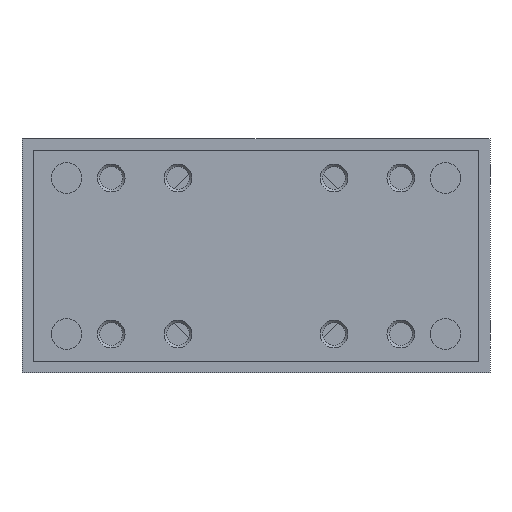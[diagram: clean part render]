
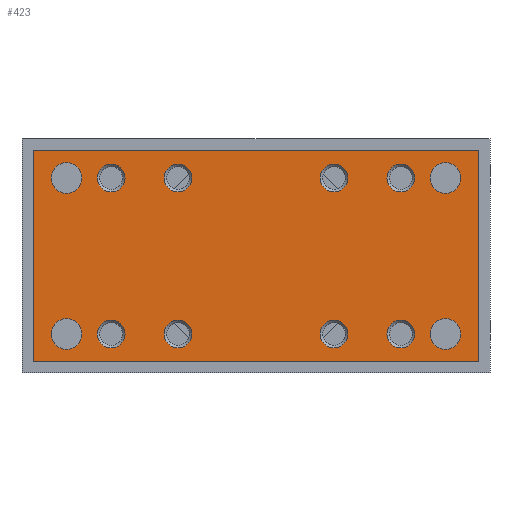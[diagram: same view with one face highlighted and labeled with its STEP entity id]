
A CAD part, left-side view. The second image highlights one B-rep face of the part: STEP entity #423.
In plain terms, the highlighted planar face has unit normal (-1, 0, 0).
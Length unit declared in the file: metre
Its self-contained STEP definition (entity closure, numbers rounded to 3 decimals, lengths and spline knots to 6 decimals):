
#423 = ADVANCED_FACE( '', ( #1013, #1014, #1015, #1016, #1017, #1018, #1019, #1020, #1021, #1022, #1023, #1024, #1025 ), #1026, .T. );
#1013 = FACE_BOUND( '', #1747, .T. );
#1014 = FACE_BOUND( '', #1748, .T. );
#1015 = FACE_BOUND( '', #1749, .T. );
#1016 = FACE_BOUND( '', #1750, .T. );
#1017 = FACE_BOUND( '', #1751, .T. );
#1018 = FACE_BOUND( '', #1752, .T. );
#1019 = FACE_BOUND( '', #1753, .T. );
#1020 = FACE_BOUND( '', #1754, .T. );
#1021 = FACE_BOUND( '', #1755, .T. );
#1022 = FACE_BOUND( '', #1756, .T. );
#1023 = FACE_BOUND( '', #1757, .T. );
#1024 = FACE_BOUND( '', #1758, .T. );
#1025 = FACE_OUTER_BOUND( '', #1759, .T. );
#1026 = PLANE( '', #1760 );
#1747 = EDGE_LOOP( '', ( #2802 ) );
#1748 = EDGE_LOOP( '', ( #2803 ) );
#1749 = EDGE_LOOP( '', ( #2804 ) );
#1750 = EDGE_LOOP( '', ( #2805 ) );
#1751 = EDGE_LOOP( '', ( #2806 ) );
#1752 = EDGE_LOOP( '', ( #2807 ) );
#1753 = EDGE_LOOP( '', ( #2808 ) );
#1754 = EDGE_LOOP( '', ( #2809 ) );
#1755 = EDGE_LOOP( '', ( #2810 ) );
#1756 = EDGE_LOOP( '', ( #2811 ) );
#1757 = EDGE_LOOP( '', ( #2812 ) );
#1758 = EDGE_LOOP( '', ( #2813 ) );
#1759 = EDGE_LOOP( '', ( #2814, #2815, #2816, #2817 ) );
#1760 = AXIS2_PLACEMENT_3D( '', #2818, #2819, #2820 );
#2802 = ORIENTED_EDGE( '', *, *, #3284, .F. );
#2803 = ORIENTED_EDGE( '', *, *, #3607, .F. );
#2804 = ORIENTED_EDGE( '', *, *, #3513, .F. );
#2805 = ORIENTED_EDGE( '', *, *, #3599, .F. );
#2806 = ORIENTED_EDGE( '', *, *, #3362, .T. );
#2807 = ORIENTED_EDGE( '', *, *, #3616, .F. );
#2808 = ORIENTED_EDGE( '', *, *, #3324, .F. );
#2809 = ORIENTED_EDGE( '', *, *, #3617, .T. );
#2810 = ORIENTED_EDGE( '', *, *, #3618, .T. );
#2811 = ORIENTED_EDGE( '', *, *, #3619, .F. );
#2812 = ORIENTED_EDGE( '', *, *, #3620, .F. );
#2813 = ORIENTED_EDGE( '', *, *, #3621, .T. );
#2814 = ORIENTED_EDGE( '', *, *, #3506, .T. );
#2815 = ORIENTED_EDGE( '', *, *, #3412, .T. );
#2816 = ORIENTED_EDGE( '', *, *, #3493, .T. );
#2817 = ORIENTED_EDGE( '', *, *, #3520, .T. );
#2818 = CARTESIAN_POINT( '', ( -0.062, -0.04, -0.002 ) );
#2819 = DIRECTION( '', ( -1., 0., 0. ) );
#2820 = DIRECTION( '', ( 0., -1., 0. ) );
#3284 = EDGE_CURVE( '', #3737, #3737, #3738, .T. );
#3324 = EDGE_CURVE( '', #3804, #3804, #3805, .T. );
#3362 = EDGE_CURVE( '', #3864, #3864, #3865, .T. );
#3412 = EDGE_CURVE( '', #3943, #3941, #3944, .T. );
#3493 = EDGE_CURVE( '', #3941, #4073, #4075, .T. );
#3506 = EDGE_CURVE( '', #4095, #3943, #4096, .T. );
#3513 = EDGE_CURVE( '', #4104, #4104, #4105, .T. );
#3520 = EDGE_CURVE( '', #4073, #4095, #4112, .T. );
#3599 = EDGE_CURVE( '', #4228, #4228, #4229, .T. );
#3607 = EDGE_CURVE( '', #4239, #4239, #4240, .T. );
#3616 = EDGE_CURVE( '', #4250, #4250, #4251, .T. );
#3617 = EDGE_CURVE( '', #4252, #4252, #4253, .T. );
#3618 = EDGE_CURVE( '', #4254, #4254, #4255, .T. );
#3619 = EDGE_CURVE( '', #4256, #4256, #4257, .T. );
#3620 = EDGE_CURVE( '', #4258, #4258, #4259, .T. );
#3621 = EDGE_CURVE( '', #4260, #4260, #4261, .T. );
#3737 = VERTEX_POINT( '', #4397 );
#3738 = CIRCLE( '', #4398, 0.00275 );
#3804 = VERTEX_POINT( '', #4505 );
#3805 = CIRCLE( '', #4506, 0.0025 );
#3864 = VERTEX_POINT( '', #4574 );
#3865 = CIRCLE( '', #4575, 0.0025 );
#3941 = VERTEX_POINT( '', #4798 );
#3943 = VERTEX_POINT( '', #4801 );
#3944 = LINE( '', #4802, #4803 );
#4073 = VERTEX_POINT( '', #5311 );
#4075 = LINE( '', #5314, #5315 );
#4095 = VERTEX_POINT( '', #5336 );
#4096 = LINE( '', #5337, #5338 );
#4104 = VERTEX_POINT( '', #5347 );
#4105 = CIRCLE( '', #5348, 0.00275 );
#4112 = LINE( '', #5357, #5358 );
#4228 = VERTEX_POINT( '', #5630 );
#4229 = CIRCLE( '', #5631, 0.00275 );
#4239 = VERTEX_POINT( '', #5643 );
#4240 = CIRCLE( '', #5644, 0.00275 );
#4250 = VERTEX_POINT( '', #5655 );
#4251 = CIRCLE( '', #5656, 0.0025 );
#4252 = VERTEX_POINT( '', #5657 );
#4253 = CIRCLE( '', #5658, 0.0025 );
#4254 = VERTEX_POINT( '', #5659 );
#4255 = CIRCLE( '', #5660, 0.0025 );
#4256 = VERTEX_POINT( '', #5661 );
#4257 = CIRCLE( '', #5662, 0.0025 );
#4258 = VERTEX_POINT( '', #5663 );
#4259 = CIRCLE( '', #5664, 0.0025 );
#4260 = VERTEX_POINT( '', #5665 );
#4261 = CIRCLE( '', #5666, 0.0025 );
#4397 = CARTESIAN_POINT( '', ( -0.062, -0.03675, -0.035 ) );
#4398 = AXIS2_PLACEMENT_3D( '', #5970, #5971, #5972 );
#4505 = CARTESIAN_POINT( '', ( -0.062, -0.026, -0.0045 ) );
#4506 = AXIS2_PLACEMENT_3D( '', #6035, #6036, #6037 );
#4574 = CARTESIAN_POINT( '', ( -0.062, -0.026, -0.0375 ) );
#4575 = AXIS2_PLACEMENT_3D( '', #6104, #6105, #6106 );
#4798 = CARTESIAN_POINT( '', ( -0.062, 0.04, -0.002 ) );
#4801 = CARTESIAN_POINT( '', ( -0.062, -0.04, -0.002 ) );
#4802 = CARTESIAN_POINT( '', ( -0.062, -0.04, -0.002 ) );
#4803 = VECTOR( '', #6178, 1. );
#5311 = CARTESIAN_POINT( '', ( -0.062, 0.04, -0.04 ) );
#5314 = CARTESIAN_POINT( '', ( -0.062, 0.04, -0.002 ) );
#5315 = VECTOR( '', #6280, 1. );
#5336 = CARTESIAN_POINT( '', ( -0.062, -0.04, -0.04 ) );
#5337 = CARTESIAN_POINT( '', ( -0.062, -0.04, -0.04 ) );
#5338 = VECTOR( '', #6300, 1. );
#5347 = CARTESIAN_POINT( '', ( -0.062, -0.03675, -0.007 ) );
#5348 = AXIS2_PLACEMENT_3D( '', #6311, #6312, #6313 );
#5357 = CARTESIAN_POINT( '', ( -0.062, 0.04, -0.04 ) );
#5358 = VECTOR( '', #6319, 1. );
#5630 = CARTESIAN_POINT( '', ( -0.062, 0.03125, -0.007 ) );
#5631 = AXIS2_PLACEMENT_3D( '', #6425, #6426, #6427 );
#5643 = CARTESIAN_POINT( '', ( -0.062, 0.03125, -0.035 ) );
#5644 = AXIS2_PLACEMENT_3D( '', #6433, #6434, #6435 );
#5655 = CARTESIAN_POINT( '', ( -0.062, 0.026, -0.0375 ) );
#5656 = AXIS2_PLACEMENT_3D( '', #6440, #6441, #6442 );
#5657 = CARTESIAN_POINT( '', ( -0.062, 0.026, -0.0045 ) );
#5658 = AXIS2_PLACEMENT_3D( '', #6443, #6444, #6445 );
#5659 = CARTESIAN_POINT( '', ( -0.062, -0.014, -0.0375 ) );
#5660 = AXIS2_PLACEMENT_3D( '', #6446, #6447, #6448 );
#5661 = CARTESIAN_POINT( '', ( -0.062, 0.014, -0.0375 ) );
#5662 = AXIS2_PLACEMENT_3D( '', #6449, #6450, #6451 );
#5663 = CARTESIAN_POINT( '', ( -0.062, -0.014, -0.0045 ) );
#5664 = AXIS2_PLACEMENT_3D( '', #6452, #6453, #6454 );
#5665 = CARTESIAN_POINT( '', ( -0.062, 0.014, -0.0045 ) );
#5666 = AXIS2_PLACEMENT_3D( '', #6455, #6456, #6457 );
#5970 = CARTESIAN_POINT( '', ( -0.062, -0.034, -0.035 ) );
#5971 = DIRECTION( '', ( -1., 0., 0. ) );
#5972 = DIRECTION( '', ( 0., -1., 0. ) );
#6035 = CARTESIAN_POINT( '', ( -0.062, -0.026, -0.007 ) );
#6036 = DIRECTION( '', ( -1., 0., 0. ) );
#6037 = DIRECTION( '', ( 0., 0., 1. ) );
#6104 = CARTESIAN_POINT( '', ( -0.062, -0.026, -0.035 ) );
#6105 = DIRECTION( '', ( 1., 0., 0. ) );
#6106 = DIRECTION( '', ( 0., 0., -1. ) );
#6178 = DIRECTION( '', ( 0., 1., 0. ) );
#6280 = DIRECTION( '', ( 0., 0., -1. ) );
#6300 = DIRECTION( '', ( 0., 0., 1. ) );
#6311 = CARTESIAN_POINT( '', ( -0.062, -0.034, -0.007 ) );
#6312 = DIRECTION( '', ( -1., 0., 0. ) );
#6313 = DIRECTION( '', ( 0., -1., 0. ) );
#6319 = DIRECTION( '', ( 0., -1., 0. ) );
#6425 = CARTESIAN_POINT( '', ( -0.062, 0.034, -0.007 ) );
#6426 = DIRECTION( '', ( -1., 0., 0. ) );
#6427 = DIRECTION( '', ( 0., -1., 0. ) );
#6433 = CARTESIAN_POINT( '', ( -0.062, 0.034, -0.035 ) );
#6434 = DIRECTION( '', ( -1., 0., 0. ) );
#6435 = DIRECTION( '', ( 0., -1., 0. ) );
#6440 = CARTESIAN_POINT( '', ( -0.062, 0.026, -0.035 ) );
#6441 = DIRECTION( '', ( -1., 0., 0. ) );
#6442 = DIRECTION( '', ( 0., 0., -1. ) );
#6443 = CARTESIAN_POINT( '', ( -0.062, 0.026, -0.007 ) );
#6444 = DIRECTION( '', ( 1., 0., 0. ) );
#6445 = DIRECTION( '', ( 0., 0., 1. ) );
#6446 = CARTESIAN_POINT( '', ( -0.062, -0.014, -0.035 ) );
#6447 = DIRECTION( '', ( 1., 0., 0. ) );
#6448 = DIRECTION( '', ( 0., 0., -1. ) );
#6449 = CARTESIAN_POINT( '', ( -0.062, 0.014, -0.035 ) );
#6450 = DIRECTION( '', ( -1., 0., 0. ) );
#6451 = DIRECTION( '', ( 0., 0., -1. ) );
#6452 = CARTESIAN_POINT( '', ( -0.062, -0.014, -0.007 ) );
#6453 = DIRECTION( '', ( -1., 0., 0. ) );
#6454 = DIRECTION( '', ( 0., 0., 1. ) );
#6455 = CARTESIAN_POINT( '', ( -0.062, 0.014, -0.007 ) );
#6456 = DIRECTION( '', ( 1., 0., 0. ) );
#6457 = DIRECTION( '', ( 0., 0., 1. ) );
